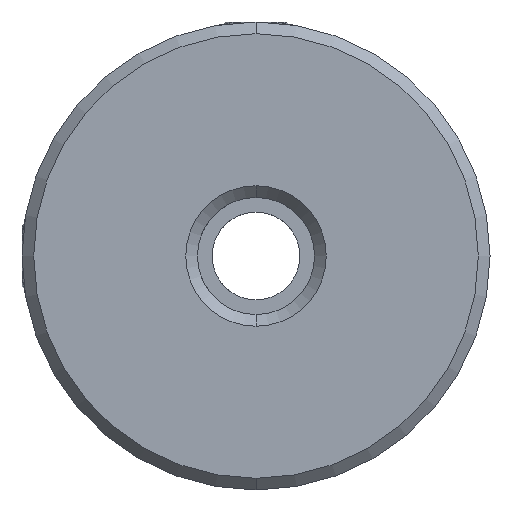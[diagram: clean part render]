
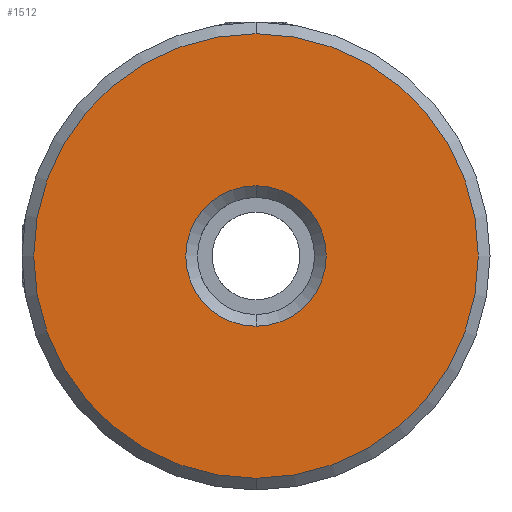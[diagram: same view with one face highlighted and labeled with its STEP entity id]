
A CAD part, front view. The second image highlights one B-rep face of the part: STEP entity #1512.
In plain terms, the highlighted planar face has unit normal (0, -1, 0).
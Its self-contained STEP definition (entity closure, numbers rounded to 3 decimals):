
#3 = CIRCLE ( 'NONE', #3109, 4.8 ) ;
#23 = EDGE_LOOP ( 'NONE', ( #1621, #2403 ) ) ;
#103 = EDGE_CURVE ( 'NONE', #2372, #1811, #1250, .T. ) ;
#359 = CIRCLE ( 'NONE', #2618, 15.2 ) ;
#364 = DIRECTION ( 'NONE',  ( 0., 1., 0. ) ) ;
#381 = DIRECTION ( 'NONE',  ( 0., 0., 1. ) ) ;
#444 = AXIS2_PLACEMENT_3D ( 'NONE', #3421, #989, #2142 ) ;
#564 = CARTESIAN_POINT ( 'NONE',  ( -10.188, -0.277, 0.046 ) ) ;
#680 = CARTESIAN_POINT ( 'NONE',  ( -10.188, -0.277, -4.754 ) ) ;
#708 = DIRECTION ( 'NONE',  ( 0., -1., 0. ) ) ;
#781 = FACE_OUTER_BOUND ( 'NONE', #23, .T. ) ;
#835 = DIRECTION ( 'NONE',  ( 0., 0., 1. ) ) ;
#969 = EDGE_CURVE ( 'NONE', #1811, #2372, #359, .T. ) ;
#989 = DIRECTION ( 'NONE',  ( 0., -1., 0. ) ) ;
#1109 = EDGE_CURVE ( 'NONE', #2048, #2120, #3, .T. ) ;
#1114 = ORIENTED_EDGE ( 'NONE', *, *, #1109, .T. ) ;
#1250 = CIRCLE ( 'NONE', #444, 15.2 ) ;
#1427 = EDGE_LOOP ( 'NONE', ( #2844, #1114 ) ) ;
#1512 = ADVANCED_FACE ( 'NONE', ( #781, #3699 ), #1658, .F. ) ;
#1576 = CIRCLE ( 'NONE', #1935, 4.8 ) ;
#1591 = CARTESIAN_POINT ( 'NONE',  ( -10.188, -0.277, 0.046 ) ) ;
#1621 = ORIENTED_EDGE ( 'NONE', *, *, #969, .T. ) ;
#1658 = PLANE ( 'NONE',  #2441 ) ;
#1675 = CARTESIAN_POINT ( 'NONE',  ( -10.188, -0.277, 0.046 ) ) ;
#1811 = VERTEX_POINT ( 'NONE', #2108 ) ;
#1935 = AXIS2_PLACEMENT_3D ( 'NONE', #564, #2331, #835 ) ;
#2048 = VERTEX_POINT ( 'NONE', #2574 ) ;
#2093 = EDGE_CURVE ( 'NONE', #2120, #2048, #1576, .T. ) ;
#2108 = CARTESIAN_POINT ( 'NONE',  ( -10.188, -0.277, 15.246 ) ) ;
#2120 = VERTEX_POINT ( 'NONE', #680 ) ;
#2142 = DIRECTION ( 'NONE',  ( 0., 0., 1. ) ) ;
#2331 = DIRECTION ( 'NONE',  ( 0., 1., 0. ) ) ;
#2372 = VERTEX_POINT ( 'NONE', #2602 ) ;
#2403 = ORIENTED_EDGE ( 'NONE', *, *, #103, .T. ) ;
#2441 = AXIS2_PLACEMENT_3D ( 'NONE', #1675, #3417, #3686 ) ;
#2574 = CARTESIAN_POINT ( 'NONE',  ( -10.188, -0.277, 4.846 ) ) ;
#2602 = CARTESIAN_POINT ( 'NONE',  ( -10.188, -0.277, -15.154 ) ) ;
#2618 = AXIS2_PLACEMENT_3D ( 'NONE', #1591, #708, #3329 ) ;
#2844 = ORIENTED_EDGE ( 'NONE', *, *, #2093, .T. ) ;
#2994 = CARTESIAN_POINT ( 'NONE',  ( -10.188, -0.277, 0.046 ) ) ;
#3109 = AXIS2_PLACEMENT_3D ( 'NONE', #2994, #364, #381 ) ;
#3329 = DIRECTION ( 'NONE',  ( 0., 0., 1. ) ) ;
#3417 = DIRECTION ( 'NONE',  ( 0., 1., 0. ) ) ;
#3421 = CARTESIAN_POINT ( 'NONE',  ( -10.188, -0.277, 0.046 ) ) ;
#3686 = DIRECTION ( 'NONE',  ( 0., 0., 1. ) ) ;
#3699 = FACE_BOUND ( 'NONE', #1427, .T. ) ;
